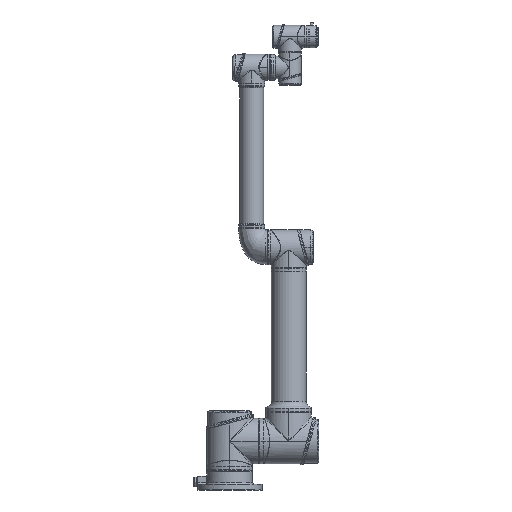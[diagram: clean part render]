
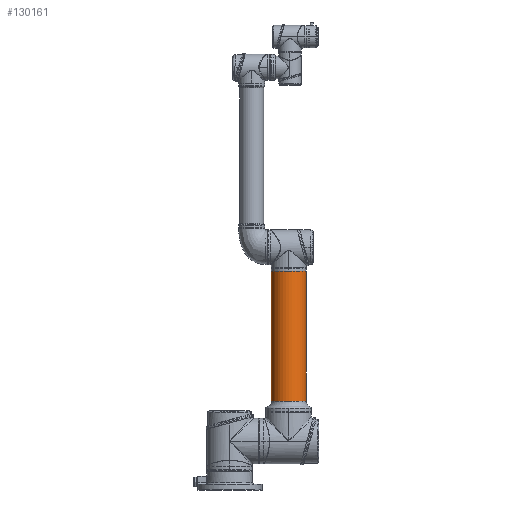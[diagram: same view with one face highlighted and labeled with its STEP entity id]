
A CAD part, front view. The second image highlights one B-rep face of the part: STEP entity #130161.
In plain terms, the highlighted cylindrical face has radius 58 mm (diameter 116 mm), a partial arc.
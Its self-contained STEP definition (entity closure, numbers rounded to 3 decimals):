
#3522 = EDGE_CURVE ( 'NONE', #140186, #93483, #87046, .T. ) ;
#7038 = CARTESIAN_POINT ( 'NONE',  ( -58., 0., 498. ) ) ;
#12998 = ORIENTED_EDGE ( 'NONE', *, *, #151119, .T. ) ;
#16418 = DIRECTION ( 'NONE',  ( 0., 0., -1. ) ) ;
#17722 = ORIENTED_EDGE ( 'NONE', *, *, #35607, .F. ) ;
#21345 = DIRECTION ( 'NONE',  ( 0., 0., 1. ) ) ;
#27832 = CARTESIAN_POINT ( 'NONE',  ( -58., 0., 451.762 ) ) ;
#35607 = EDGE_CURVE ( 'NONE', #118747, #140186, #64959, .T. ) ;
#39551 = DIRECTION ( 'NONE',  ( 0., 0., 1. ) ) ;
#45724 = CYLINDRICAL_SURFACE ( 'NONE', #67774, 58. ) ;
#47948 = CARTESIAN_POINT ( 'NONE',  ( -58., 0., 18. ) ) ;
#49932 = DIRECTION ( 'NONE',  ( 0., 0., 1. ) ) ;
#59943 = EDGE_LOOP ( 'NONE', ( #17722, #12998, #185512, #196313, #155076 ) ) ;
#64959 = CIRCLE ( 'NONE', #106681, 58. ) ;
#67774 = AXIS2_PLACEMENT_3D ( 'NONE', #160430, #210558, #111008 ) ;
#72975 = DIRECTION ( 'NONE',  ( 0., 0., -1. ) ) ;
#81825 = VECTOR ( 'NONE', #72975, 1000. ) ;
#82457 = CARTESIAN_POINT ( 'NONE',  ( 58., 0., 498. ) ) ;
#84317 = EDGE_CURVE ( 'NONE', #187359, #93483, #98960, .T. ) ;
#87046 = LINE ( 'NONE', #7038, #81825 ) ;
#93483 = VERTEX_POINT ( 'NONE', #47948 ) ;
#98187 = VECTOR ( 'NONE', #16418, 1000. ) ;
#98960 = CIRCLE ( 'NONE', #191627, 58. ) ;
#106681 = AXIS2_PLACEMENT_3D ( 'NONE', #139086, #39551, #155767 ) ;
#111008 = DIRECTION ( 'NONE',  ( -1., 0., 0. ) ) ;
#118747 = VERTEX_POINT ( 'NONE', #123675 ) ;
#120777 = CARTESIAN_POINT ( 'NONE',  ( 0., 0., 18. ) ) ;
#121175 = CARTESIAN_POINT ( 'NONE',  ( 58., 0., 18. ) ) ;
#123675 = CARTESIAN_POINT ( 'NONE',  ( 58., 0., 451.762 ) ) ;
#130161 = ADVANCED_FACE ( 'NONE', ( #139275 ), #45724, .T. ) ;
#137577 = DIRECTION ( 'NONE',  ( 1., 0., 0. ) ) ;
#139086 = CARTESIAN_POINT ( 'NONE',  ( 0., 0., 451.762 ) ) ;
#139275 = FACE_OUTER_BOUND ( 'NONE', #59943, .T. ) ;
#140186 = VERTEX_POINT ( 'NONE', #27832 ) ;
#142356 = LINE ( 'NONE', #82457, #98187 ) ;
#149139 = VERTEX_POINT ( 'NONE', #121175 ) ;
#149382 = CARTESIAN_POINT ( 'NONE',  ( 0., 0., 18. ) ) ;
#151119 = EDGE_CURVE ( 'NONE', #118747, #149139, #142356, .T. ) ;
#155076 = ORIENTED_EDGE ( 'NONE', *, *, #3522, .F. ) ;
#155767 = DIRECTION ( 'NONE',  ( 1., 0., 0. ) ) ;
#160430 = CARTESIAN_POINT ( 'NONE',  ( 0., 0., 498. ) ) ;
#164535 = CIRCLE ( 'NONE', #204775, 58. ) ;
#166149 = DIRECTION ( 'NONE',  ( 1., 0., 0. ) ) ;
#167172 = EDGE_CURVE ( 'NONE', #149139, #187359, #164535, .T. ) ;
#185512 = ORIENTED_EDGE ( 'NONE', *, *, #167172, .T. ) ;
#187359 = VERTEX_POINT ( 'NONE', #212809 ) ;
#191627 = AXIS2_PLACEMENT_3D ( 'NONE', #120777, #21345, #137577 ) ;
#196313 = ORIENTED_EDGE ( 'NONE', *, *, #84317, .T. ) ;
#204775 = AXIS2_PLACEMENT_3D ( 'NONE', #149382, #49932, #166149 ) ;
#210558 = DIRECTION ( 'NONE',  ( 0., 0., -1. ) ) ;
#212809 = CARTESIAN_POINT ( 'NONE',  ( 0., 58., 18. ) ) ;
